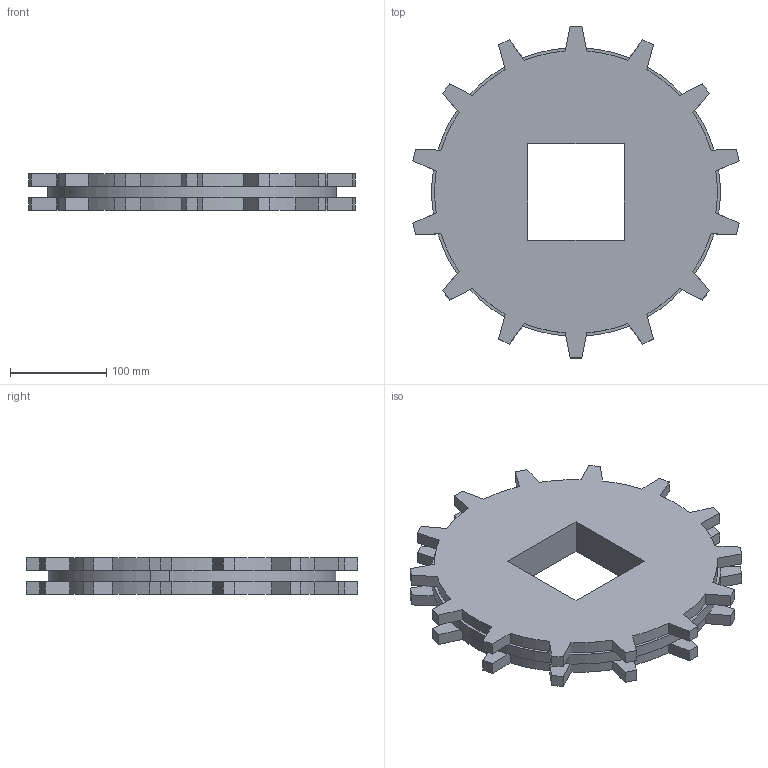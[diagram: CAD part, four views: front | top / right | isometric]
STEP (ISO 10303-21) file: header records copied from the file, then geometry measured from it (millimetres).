
FILE_DESCRIPTION((''),'2;1');
FILE_NAME('S10000_14T_SQ','2017-05-10T',('rklein'),('INTRALOX'),'PRO/ENGINEER BY PARAMETRIC TECHNOLOGY CORPORATION, 2009460','PRO/ENGINEER BY PARAMETRIC TECHNOLOGY CORPORATION, 2009460','');
FILE_SCHEMA(('CONFIG_CONTROL_DESIGN'));
Length unit declared in the file: inch
Products named in the file (1): S10000_14T_SQ
Bounding box: 338.67 x 344.59 x 37.59 mm (x, y, z)
Volume: 2359516 mm3; surface area: 207163 mm2
Topology: 1 solids, 1 shells, 176 faces, 462 edges, 288 vertices
Faces by surface type: plane 146, cylinder 30
Entity records: 5382 total; most frequent: DIRECTION 926, CARTESIAN_POINT 926, ORIENTED_EDGE 924, EDGE_CURVE 462, VECTOR 350, LINE 350, AXIS2_PLACEMENT_3D 288, VERTEX_POINT 288
